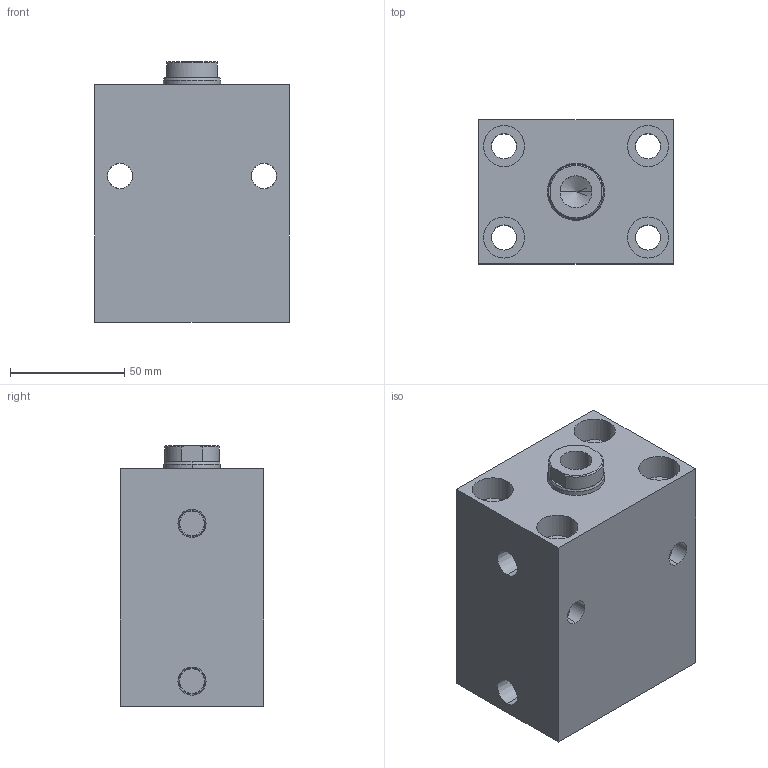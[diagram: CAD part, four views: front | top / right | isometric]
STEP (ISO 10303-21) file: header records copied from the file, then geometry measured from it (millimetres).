
FILE_DESCRIPTION (( 'STEP AP203' ), '1' );
FILE_NAME ('HBC-40D-50N装配体.STEP', '2019-11-29T08:57:44', ( '微软用户' ), ( '微软中国' ), 'SwSTEP 2.0', 'SolidWorks 2012', '' );
FILE_SCHEMA (( 'CONFIG_CONTROL_DESIGN' ));
Length unit declared in the file: millimetre
Products named in the file (3): HBC-40D-50N掛极; HBC-40D-50N活塞杆; HBC-40D-50N蚾饜极
Assembly tree (2 placements, depth 2):
  HBC-40D-50N蚾饜极
    HBC-40D-50N掛极
    HBC-40D-50N活塞杆
Bounding box: 85 x 63 x 114 mm (x, y, z)
Volume: 460932.6 mm3; surface area: 83822 mm2
Topology: 2 solids, 2 shells, 84 faces, 200 edges, 123 vertices
Faces by surface type: cylinder 52, plane 22, cone 10
Entity records: 2759 total; most frequent: CARTESIAN_POINT 518, DIRECTION 424, ORIENTED_EDGE 396, EDGE_CURVE 198, AXIS2_PLACEMENT_3D 173, VERTEX_POINT 123, EDGE_LOOP 109, CIRCLE 84
